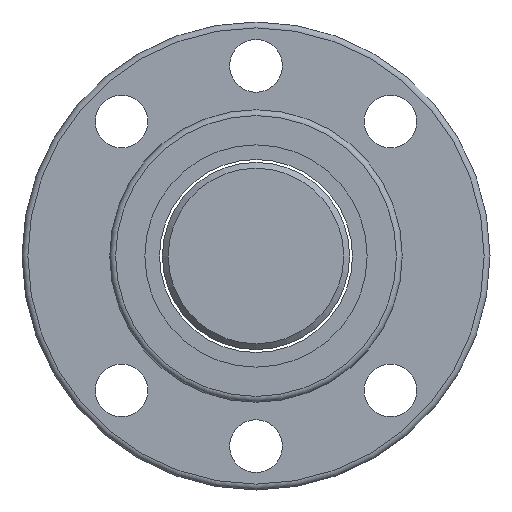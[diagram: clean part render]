
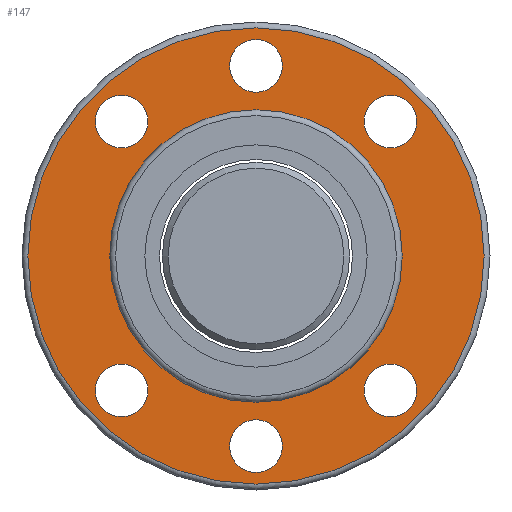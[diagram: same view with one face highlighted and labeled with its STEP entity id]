
A CAD part, left-side view. The second image highlights one B-rep face of the part: STEP entity #147.
In plain terms, the highlighted planar face has unit normal (-1, 0, 0).
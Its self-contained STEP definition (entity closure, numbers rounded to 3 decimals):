
#114=PLANE('',#545);
#125=FACE_OUTER_BOUND('',#284,.T.);
#147=ADVANCED_FACE('',(#210,#211,#212,#213,#214,#215,#216,#125),#114,.T.);
#210=FACE_BOUND('',#277,.T.);
#211=FACE_BOUND('',#278,.T.);
#212=FACE_BOUND('',#279,.T.);
#213=FACE_BOUND('',#280,.T.);
#214=FACE_BOUND('',#281,.T.);
#215=FACE_BOUND('',#282,.T.);
#216=FACE_BOUND('',#283,.T.);
#277=EDGE_LOOP('',(#351));
#278=EDGE_LOOP('',(#352));
#279=EDGE_LOOP('',(#353));
#280=EDGE_LOOP('',(#354));
#281=EDGE_LOOP('',(#355));
#282=EDGE_LOOP('',(#356));
#283=EDGE_LOOP('',(#357));
#284=EDGE_LOOP('',(#358));
#351=ORIENTED_EDGE('',*,*,#448,.F.);
#352=ORIENTED_EDGE('',*,*,#449,.F.);
#353=ORIENTED_EDGE('',*,*,#450,.F.);
#354=ORIENTED_EDGE('',*,*,#451,.F.);
#355=ORIENTED_EDGE('',*,*,#452,.F.);
#356=ORIENTED_EDGE('',*,*,#453,.F.);
#357=ORIENTED_EDGE('',*,*,#454,.T.);
#358=ORIENTED_EDGE('',*,*,#447,.F.);
#410=VERTEX_POINT('',#768);
#411=VERTEX_POINT('',#771);
#412=VERTEX_POINT('',#773);
#413=VERTEX_POINT('',#775);
#414=VERTEX_POINT('',#777);
#415=VERTEX_POINT('',#779);
#416=VERTEX_POINT('',#781);
#417=VERTEX_POINT('',#783);
#447=EDGE_CURVE('',#410,#410,#484,.T.);
#448=EDGE_CURVE('',#411,#411,#485,.T.);
#449=EDGE_CURVE('',#412,#412,#486,.T.);
#450=EDGE_CURVE('',#413,#413,#487,.T.);
#451=EDGE_CURVE('',#414,#414,#488,.T.);
#452=EDGE_CURVE('',#415,#415,#489,.T.);
#453=EDGE_CURVE('',#416,#416,#490,.T.);
#454=EDGE_CURVE('',#417,#417,#491,.T.);
#484=CIRCLE('',#536,39.);
#485=CIRCLE('',#538,4.5);
#486=CIRCLE('',#539,4.5);
#487=CIRCLE('',#540,4.5);
#488=CIRCLE('',#541,4.5);
#489=CIRCLE('',#542,4.5);
#490=CIRCLE('',#543,4.5);
#491=CIRCLE('',#544,25.);
#536=AXIS2_PLACEMENT_3D('',#767,#642,#643);
#538=AXIS2_PLACEMENT_3D('',#770,#646,#647);
#539=AXIS2_PLACEMENT_3D('',#772,#648,#649);
#540=AXIS2_PLACEMENT_3D('',#774,#650,#651);
#541=AXIS2_PLACEMENT_3D('',#776,#652,#653);
#542=AXIS2_PLACEMENT_3D('',#778,#654,#655);
#543=AXIS2_PLACEMENT_3D('',#780,#656,#657);
#544=AXIS2_PLACEMENT_3D('',#782,#658,#659);
#545=AXIS2_PLACEMENT_3D('',#784,#660,#661);
#642=DIRECTION('',(1.,0.,0.));
#643=DIRECTION('',(0.,0.,-1.));
#646=DIRECTION('',(-1.,0.,0.));
#647=DIRECTION('',(0.,0.,1.));
#648=DIRECTION('',(-1.,0.,0.));
#649=DIRECTION('',(0.,0.,1.));
#650=DIRECTION('',(-1.,0.,0.));
#651=DIRECTION('',(0.,0.,1.));
#652=DIRECTION('',(-1.,0.,0.));
#653=DIRECTION('',(0.,0.,1.));
#654=DIRECTION('',(-1.,0.,0.));
#655=DIRECTION('',(0.,0.,1.));
#656=DIRECTION('',(-1.,0.,0.));
#657=DIRECTION('',(0.,0.,1.));
#658=DIRECTION('',(1.,0.,0.));
#659=DIRECTION('',(0.,0.,-1.));
#660=DIRECTION('',(-1.,0.,0.));
#661=DIRECTION('',(0.,0.,1.));
#767=CARTESIAN_POINT('',(-27.,0.,0.));
#768=CARTESIAN_POINT('',(-27.,0.,-39.));
#770=CARTESIAN_POINT('',(-27.,0.,-32.5));
#771=CARTESIAN_POINT('',(-27.,0.,-28.));
#772=CARTESIAN_POINT('',(-27.,0.,32.5));
#773=CARTESIAN_POINT('',(-27.,0.,37.));
#774=CARTESIAN_POINT('',(-27.,22.981,-22.981));
#775=CARTESIAN_POINT('',(-27.,22.981,-18.481));
#776=CARTESIAN_POINT('',(-27.,-22.981,-22.981));
#777=CARTESIAN_POINT('',(-27.,-22.981,-18.481));
#778=CARTESIAN_POINT('',(-27.,-22.981,22.981));
#779=CARTESIAN_POINT('',(-27.,-22.981,27.481));
#780=CARTESIAN_POINT('',(-27.,22.981,22.981));
#781=CARTESIAN_POINT('',(-27.,22.981,27.481));
#782=CARTESIAN_POINT('',(-27.,0.,0.));
#783=CARTESIAN_POINT('',(-27.,0.,-25.));
#784=CARTESIAN_POINT('',(-27.,32.,0.));
